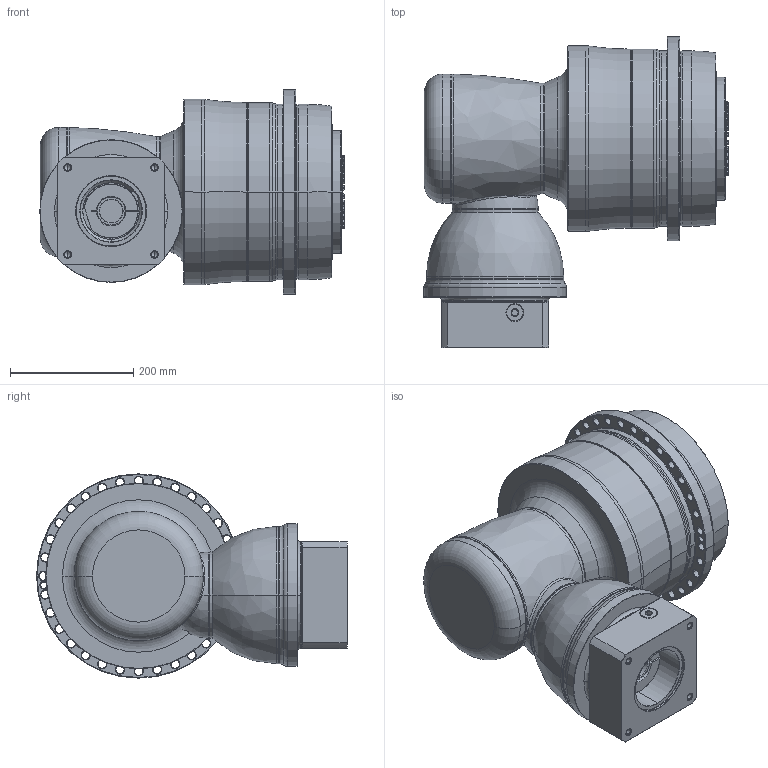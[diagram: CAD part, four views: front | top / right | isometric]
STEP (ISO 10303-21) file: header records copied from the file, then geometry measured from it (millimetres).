
FILE_DESCRIPTION((''),'2;1');
FILE_NAME('APCK285_3ST_38-P0409910201_ASM','2018-05-14T',('d01226'),(''),'PRO/ENGINEER BY PARAMETRIC TECHNOLOGY CORPORATION, 2008410','PRO/ENGINEER BY PARAMETRIC TECHNOLOGY CORPORATION, 2008410','');
FILE_SCHEMA(('CONFIG_CONTROL_DESIGN'));
Length unit declared in the file: millimetre
Products named in the file (13): P1008600002; P1832810001; P0278801003; P03598G0103; P1211800001; P1315600001; P1007601001; P1318610201; P0409910201; P0503900012; P0912652001; 21711422019; APCK285_3ST_38-P0409910201_ASM
Assembly tree (12 placements, depth 2):
  APCK285_3ST_38-P0409910201_ASM
    P1008600002
    P1832810001
    P0278801003
    P03598G0103
    P1211800001
    P1315600001
    P1007601001
    P1318610201
    P0409910201
    P0503900012
    P0912652001
    21711422019
Bounding box: 495.1 x 505.5 x 332 mm (x, y, z)
Volume: 30818040 mm3; surface area: 1695019.3 mm2
Topology: 13 solids, 25 shells, 853 faces, 2050 edges, 1254 vertices
Faces by surface type: cone 284, cylinder 241, plane 154, torus 139, bspline 33, sphere 2
Entity records: 32195 total; most frequent: CARTESIAN_POINT 11825, DIRECTION 4543, ORIENTED_EDGE 4022, EDGE_CURVE 2036, AXIS2_PLACEMENT_3D 2004, VERTEX_POINT 1254, CIRCLE 1147, EDGE_LOOP 982
